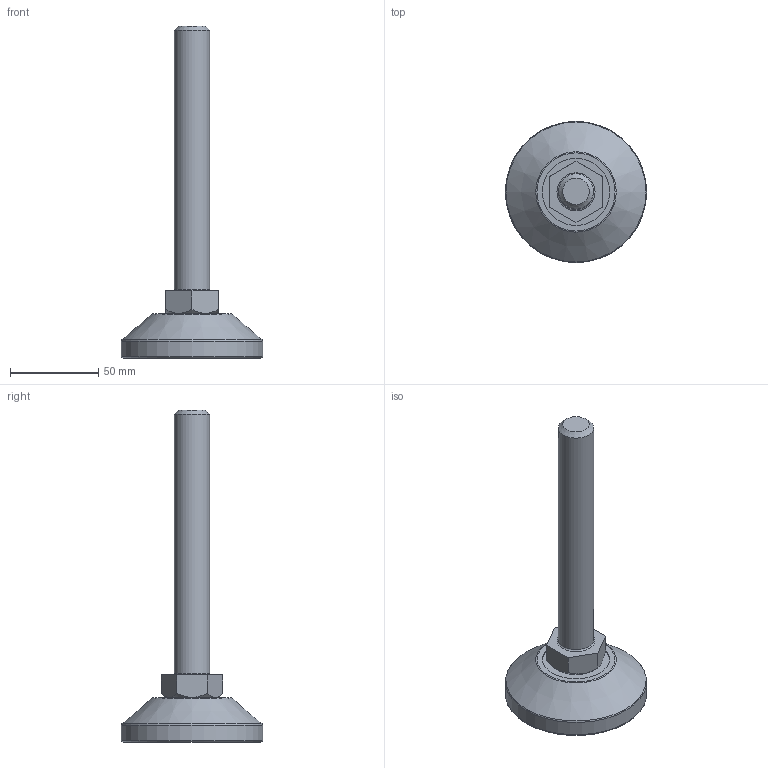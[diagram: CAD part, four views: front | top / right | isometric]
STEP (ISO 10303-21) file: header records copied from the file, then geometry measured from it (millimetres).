
FILE_DESCRIPTION(/* description */ (''),/* implementation_level */ '2;1');
FILE_NAME(/* name */ 'D:\조절자\FS\FS-M20x150L.stp',/* time_stamp */ '2016-03-14T14:41:46+09:00',/* author */ ('GS-DT-1-001'),/* organization */ (''),/* preprocessor_version */ 'ST-DEVELOPER v15.6',/* originating_system */ 'Autodesk Inventor LT ',/* authorisation */ '');
FILE_SCHEMA (('AUTOMOTIVE_DESIGN { 1 0 10303 214 3 1 1 }'));
Length unit declared in the file: millimetre
Products named in the file (1): FS-M20x150L
Bounding box: 80 x 80 x 188 mm (x, y, z)
Volume: 119981.7 mm3; surface area: 29358.2 mm2
Topology: 2 solids, 2 shells, 47 faces, 89 edges, 55 vertices
Faces by surface type: plane 19, cone 11, cylinder 10, torus 7
Full cylindrical faces by diameter (mm): 7.153 x1, 8.2 x1, 20 x1, 38 x1, 50 x1, 57 x1, 61 x1, 71 x1, 75 x1, 80 x1
Entity records: 1023 total; most frequent: DIRECTION 186, CARTESIAN_POINT 168, ORIENTED_EDGE 114, AXIS2_PLACEMENT_3D 87, EDGE_LOOP 86, EDGE_CURVE 57, VERTEX_POINT 51, FACE_OUTER_BOUND 47
